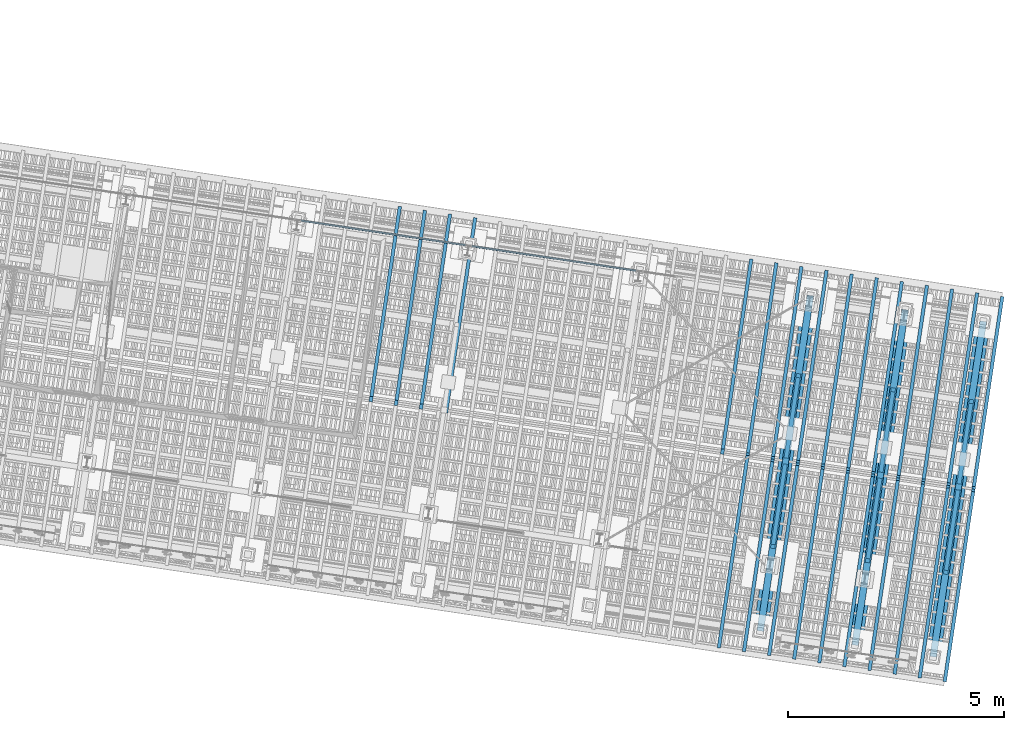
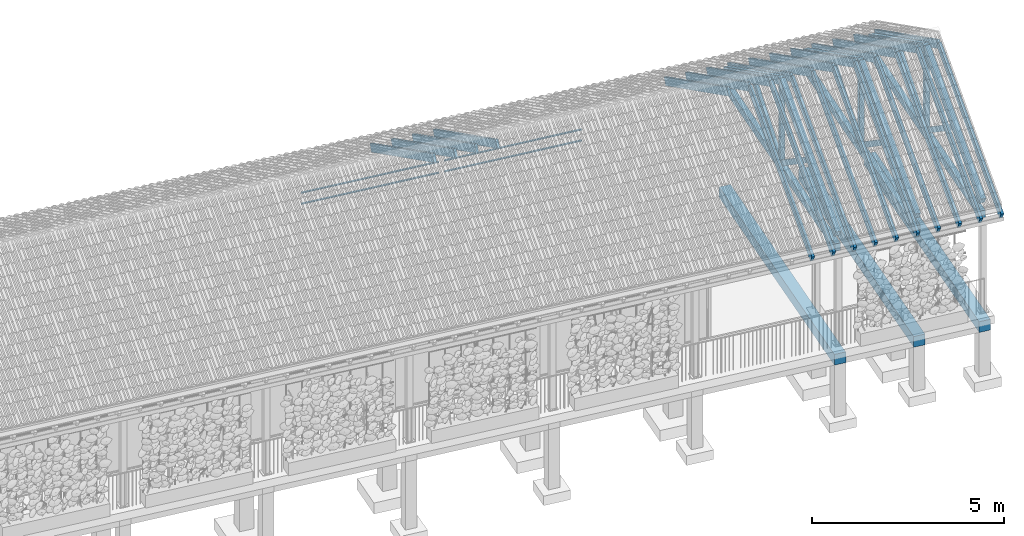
# One storey, part 105 of 131: 44 members, 6 beams, 2 elements without a shape of their own.
"""IFC4 building model written with IfcOpenShell, lengths in metres."""

import ifcopenshell
import ifcopenshell.guid

model = None  # the IFC model being written
_history = None  # IfcOwnerHistory: only IFC2X3 demands one
_inside = {}  # id of a spatial element -> (the spatial element, [elements in it])
_under = {}  # id of a project, library or spatial element -> (it, [spatial elements below it])
_declared = {}  # id of a project -> (the project, [libraries it declares])
_typed = {}  # id of a type object -> (the type object, [elements of that type])
_made_of = {}  # id of a material, layer set ... -> (it, [elements and type objects made of it])


def new_model(schema):
    """Start an empty IFC model of exactly this schema.

    Asked for "IFC4X3", IfcOpenShell would pick the latest addendum, in which some entities
    have other attributes; the version numbers below select the first issue.
    IFC2X3 requires an IfcOwnerHistory on every rooted entity: one is made here for all.
    """
    global model, _history
    if schema == "IFC4X3":
        model = ifcopenshell.file(schema_version=(4, 3, 0, 0))
    else:
        model = ifcopenshell.file(schema=schema)
    _inside.clear()
    _under.clear()
    _declared.clear()
    _typed.clear()
    _made_of.clear()
    _history = None
    if model.schema == "IFC2X3":
        org = make("IfcOrganization", Name="unknown")
        user = make(
            "IfcPersonAndOrganization",
            ThePerson=make("IfcPerson", FamilyName="unknown"),
            TheOrganization=org,
        )
        app = make(
            "IfcApplication",
            ApplicationDeveloper=org,
            Version="unknown",
            ApplicationFullName="unknown",
            ApplicationIdentifier="unknown",
        )
        _history = make(
            "IfcOwnerHistory",
            OwningUser=user,
            OwningApplication=app,
            ChangeAction="ADDED",
            CreationDate=0,
        )
    return model


def make(cls, **values):
    """One entity of the class cls with the attributes given. An attribute that is None is left unset."""
    return model.create_entity(
        cls, **{name: value for name, value in values.items() if value is not None}
    )


def rooted(cls, **values):
    """An entity with a GlobalId (a new one), such as an element, a storey or a relation."""
    return make(cls, GlobalId=ifcopenshell.guid.new(), OwnerHistory=_history, **values)


def si_unit(unit_type, name, prefix=None):
    """IfcSIUnit, for example si_unit("LENGTHUNIT", "METRE", prefix="MILLI")."""
    return make("IfcSIUnit", UnitType=unit_type, Prefix=prefix, Name=name)


def assignment(units):
    """IfcUnitAssignment: the units of a project."""
    return None if units is None else make("IfcUnitAssignment", Units=units)


def point(xyz):
    """IfcCartesianPoint."""
    return None if xyz is None else make("IfcCartesianPoint", Coordinates=xyz)


def direction(xyz):
    """IfcDirection."""
    return None if xyz is None else make("IfcDirection", DirectionRatios=xyz)


def frame(location, z_axis=None, x_axis=None):
    """IfcAxis2Placement3D, a coordinate frame: its origin and axes. An axis left out is left unset."""
    return make(
        "IfcAxis2Placement3D",
        Location=point(location),
        Axis=direction(z_axis),
        RefDirection=direction(x_axis),
    )


def origin_with_axes():
    """The frame at (0, 0, 0) with the z axis (0, 0, 1) and the x axis (1, 0, 0) written out."""
    return frame((0.0, 0.0, 0.0), z_axis=(0.0, 0.0, 1.0), x_axis=(1.0, 0.0, 0.0))


def place(relative_to, where):
    """IfcLocalPlacement: puts the frame where relative to a parent placement (None: the world)."""
    return make(
        "IfcLocalPlacement", PlacementRelTo=relative_to, RelativePlacement=where
    )


def context(
    kind, dimensions, precision=None, world=None, true_north=None, identifier=None
):
    """IfcGeometricRepresentationContext, for example the 3D "Model" context."""
    return make(
        "IfcGeometricRepresentationContext",
        ContextIdentifier=identifier,
        ContextType=kind,
        CoordinateSpaceDimension=dimensions,
        Precision=precision,
        WorldCoordinateSystem=world,
        TrueNorth=true_north,
    )


def subcontext(parent, identifier, kind, view, scale=None):
    """IfcGeometricRepresentationSubContext, for example "Body" below "Model"."""
    return make(
        "IfcGeometricRepresentationSubContext",
        ContextIdentifier=identifier,
        ContextType=kind,
        ParentContext=parent,
        TargetScale=scale,
        TargetView=view,
    )


def project(units=None, contexts=None):
    """IfcProject with its units and contexts."""
    return rooted(
        "IfcProject",
        Name="project",
        RepresentationContexts=contexts,
        UnitsInContext=assignment(units),
    )


def spatial(cls, under=None, at=None, **own):
    """A site, building, storey or space (cls), placed at a placement, below another one or the project."""
    s = rooted(cls, ObjectPlacement=at, **own)
    if under is not None:
        _under.setdefault(under.id(), (under, []))[1].append(s)
    return s


def polyline(points):
    """IfcPolyline through the points."""
    return make("IfcPolyline", Points=[point(p) for p in points])


def profile(cls, at=None, kind="AREA", **sizes):
    """A parametric profile (cls). Its sizes go by their IFC names, for example OverallWidth=200.0."""
    return make(cls, ProfileType=kind, Position=at, **sizes)


def rectangle(**sizes):
    """IfcRectangleProfileDef."""
    return profile("IfcRectangleProfileDef", **sizes)


def outline(outer, holes=None, kind="AREA"):
    """IfcArbitraryClosedProfileDef: a profile drawn as a closed curve; with holes, ...WithVoids."""
    if holes is None:
        return make("IfcArbitraryClosedProfileDef", ProfileType=kind, OuterCurve=outer)
    return make(
        "IfcArbitraryProfileDefWithVoids",
        ProfileType=kind,
        OuterCurve=outer,
        InnerCurves=holes,
    )


def extrude(swept, where, along, depth):
    """IfcExtrudedAreaSolid: the profile swept, set in the frame where, extruded along a direction by depth."""
    return make(
        "IfcExtrudedAreaSolid",
        SweptArea=swept,
        Position=where,
        ExtrudedDirection=direction(along),
        Depth=depth,
    )


def shape(context_of_items, identifier, shape_type, items):
    """IfcShapeRepresentation: the items that make up one representation, for example the "Body"."""
    return make(
        "IfcShapeRepresentation",
        ContextOfItems=context_of_items,
        RepresentationIdentifier=identifier,
        RepresentationType=shape_type,
        Items=items,
    )


def material(Name=None, Category=None):
    """IfcMaterial."""
    return make("IfcMaterial", Name=Name, Category=Category)


def material_profile(
    of_material, cross_section, Name=None, Category=None, Priority=None
):
    """IfcMaterialProfile: a cross section and its material."""
    return make(
        "IfcMaterialProfile",
        Name=Name,
        Material=of_material,
        Profile=cross_section,
        Priority=Priority,
        Category=Category,
    )


def profile_set(profiles, Name=None, composite=None):
    """IfcMaterialProfileSet."""
    return make(
        "IfcMaterialProfileSet",
        Name=Name,
        MaterialProfiles=profiles,
        CompositeProfile=composite,
    )


def profile_usage(for_profile_set, cardinal=None, extent=None):
    """IfcMaterialProfileSetUsage: how a profile set lies along its element."""
    return make(
        "IfcMaterialProfileSetUsage",
        ForProfileSet=for_profile_set,
        CardinalPoint=cardinal,
        ReferenceExtent=extent,
    )


def made_of(thing, what):
    """Note that an element or type object is made of a material, layer set ...; save() writes the relation."""
    if what is not None:
        _made_of.setdefault(what.id(), (what, []))[1].append(thing)
    return thing


def type_object(cls, material=None, **own):
    """A type object (cls), such as IfcWallType, which elements share."""
    return made_of(rooted(cls, **own), material)


def element(
    cls,
    number,
    at=None,
    inside=None,
    cuts=None,
    type_object=None,
    material=None,
    context=None,
    identifier="Body",
    shape_type=None,
    held_by="IfcProductDefinitionShape",
    body=None,
    shapes=None,
    **own,
):
    """One element of the class cls, such as IfcWall. Its Tag is "e" and its number.

    at: its placement. inside: the storey or other place that contains it. cuts: it is an
    opening in that element (IfcRelVoidsElement). A single representation is given by context,
    identifier, shape_type and body (its items); several are given by shapes. held_by: the class
    of the entity that holds the representations. save() writes the other relations.
    """
    e = rooted(cls, Tag="e%d" % number, ObjectPlacement=at, **own)
    if body is not None:
        shapes = [shape(context, identifier, shape_type, body)]
    if shapes is not None:
        e.Representation = make(held_by, Representations=shapes)
    if inside is not None:
        _inside.setdefault(inside.id(), (inside, []))[1].append(e)
    if cuts is not None:
        rooted(
            "IfcRelVoidsElement", RelatingBuildingElement=cuts, RelatedOpeningElement=e
        )
    if type_object is not None:
        _typed.setdefault(type_object.id(), (type_object, []))[1].append(e)
    return made_of(e, material)


def aggregate(whole, parts):
    """IfcRelAggregates: a whole, such as a stair, and the parts it consists of."""
    return rooted("IfcRelAggregates", RelatingObject=whole, RelatedObjects=parts)


def save(model, path):
    """Write the relations noted so far, then the file.

    IfcRelAggregates (storeys below a building ...), IfcRelContainedInSpatialStructure (elements
    in a storey), IfcRelDefinesByType, IfcRelAssociatesMaterial and IfcRelDeclares: one each for
    every whole, place, type object, material and project.
    """
    for whole, parts in _under.values():
        aggregate(whole, parts)
    for where, things in _inside.values():
        rooted(
            "IfcRelContainedInSpatialStructure",
            RelatedElements=things,
            RelatingStructure=where,
        )
    for kind, things in _typed.values():
        rooted("IfcRelDefinesByType", RelatedObjects=things, RelatingType=kind)
    for what, things in _made_of.values():
        rooted("IfcRelAssociatesMaterial", RelatedObjects=things, RelatingMaterial=what)
    for by, libraries in _declared.values():
        rooted("IfcRelDeclares", RelatingContext=by, RelatedDefinitions=libraries)
    model.write(path)


model = new_model("IFC4")

# Units and contexts
model_context = context("Model", 3, precision=1e-05, world=origin_with_axes(), true_north=direction((0.0, 1.0)))
body_context = subcontext(model_context, "Body", "Model", "MODEL_VIEW")
ifc_project = project(units=[si_unit("VOLUMEUNIT", "CUBIC_METRE"), si_unit("LENGTHUNIT", "METRE"), si_unit("AREAUNIT", "SQUARE_METRE")], contexts=[model_context])

# Site, building, storey
site_placement = place(None, origin_with_axes())
site = spatial("IfcSite", under=ifc_project, at=site_placement, Name="Lares · Rua das Mercês · artigo 4771")
building_placement = place(site_placement, frame((15.0, 9.7, 15.8), z_axis=(0.0, 0.0, 1.0), x_axis=(0.989015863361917, -0.147809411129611, 0.0)))
building = spatial("IfcBuilding", under=site, at=building_placement, Name="Casa Sobreposta")
storey_placement = place(building_placement, origin_with_axes())
storey = spatial("IfcBuildingStorey", under=building, at=storey_placement, Name="00 · Habitação e estacionamento", Elevation=15.8)

# Members
ifc_material_1 = material(Name="Aço pintado / Stahl lackiert", Category="steel")
ifc_material_profile_1 = material_profile(ifc_material_1, rectangle(XDim=0.035, YDim=0.035))
ifc_profile_set_1 = profile_set([ifc_material_profile_1], Name="R0.035")
ifc_profile_usage_1 = profile_usage(ifc_profile_set_1)
member_type_1 = type_object("IfcMemberType", Name="R0.035 / steel", PredefinedType="NOTDEFINED", material=ifc_profile_set_1)
member_1_placement = place(storey_placement, frame((16.08, 6.4, 2.35), z_axis=(1.0, 0.0, 0.0), x_axis=(0.0, -1.0, 0.0)))
element("IfcMember", 1, at=member_1_placement, inside=storey, type_object=member_type_1, material=ifc_profile_usage_1, Name="Rasgo norte 5 · travessa", context=body_context, shape_type="SweptSolid", body=[
    extrude(rectangle(XDim=0.035, YDim=0.035), origin_with_axes(), (0.0, 0.0, 1.0), 3.84),
])
ifc_profile_usage_2 = profile_usage(ifc_profile_set_1)
member_2_placement = place(storey_placement, frame((16.08, 6.4, 2.7), z_axis=(1.0, 0.0, 0.0), x_axis=(0.0, -1.0, 0.0)))
element("IfcMember", 2, at=member_2_placement, inside=storey, type_object=member_type_1, material=ifc_profile_usage_2, Name="Rasgo norte 5 · travessa", context=body_context, shape_type="SweptSolid", body=[
    extrude(rectangle(XDim=0.035, YDim=0.035), origin_with_axes(), (0.0, 0.0, 1.0), 3.84),
])
ifc_profile_usage_3 = profile_usage(ifc_profile_set_1)
member_3_placement = place(storey_placement, frame((20.08, 6.4, 2.35), z_axis=(1.0, 0.0, 0.0), x_axis=(0.0, -1.0, 0.0)))
element("IfcMember", 3, at=member_3_placement, inside=storey, type_object=member_type_1, material=ifc_profile_usage_3, Name="Rasgo norte 6 · travessa", context=body_context, shape_type="SweptSolid", body=[
    extrude(rectangle(XDim=0.035, YDim=0.035), origin_with_axes(), (0.0, 0.0, 1.0), 3.84),
])
ifc_profile_usage_4 = profile_usage(ifc_profile_set_1)
member_4_placement = place(storey_placement, frame((20.08, 6.4, 2.7), z_axis=(1.0, 0.0, 0.0), x_axis=(0.0, -1.0, 0.0)))
element("IfcMember", 4, at=member_4_placement, inside=storey, type_object=member_type_1, material=ifc_profile_usage_4, Name="Rasgo norte 6 · travessa", context=body_context, shape_type="SweptSolid", body=[
    extrude(rectangle(XDim=0.035, YDim=0.035), origin_with_axes(), (0.0, 0.0, 1.0), 3.84),
])

# Roof, beams, members
ifc_material_2 = material(Name="Madeira / Bauholz", Category="wood")
roof_placement = place(storey_placement, origin_with_axes())
roof = element("IfcRoof", 5, at=roof_placement, inside=storey, material=ifc_material_2, Name="Cobertura de telha · duas águas 30 graus", PredefinedType="GABLE_ROOF")
ifc_material_profile_2 = material_profile(ifc_material_2, rectangle(XDim=0.16, YDim=0.24))
ifc_profile_set_2 = profile_set([ifc_material_profile_2], Name="TIMBER0.160x0.240")
ifc_profile_usage_5 = profile_usage(ifc_profile_set_2)
beam_type = type_object("IfcBeamType", Name="TIMBER0.160x0.240 / timber", PredefinedType="NOTDEFINED", material=ifc_profile_set_2)
beam_1_placement = place(roof_placement, frame((28.0, -1.43, 3.02), z_axis=(0.0, 1.0, 0.0), x_axis=(1.0, 0.0, 0.0)))
beam_1 = element("IfcBeam", 6, at=beam_1_placement, type_object=beam_type, material=ifc_profile_usage_5, Name="Tesoura · tirante inferior", context=body_context, shape_type="SweptSolid", body=[
    extrude(rectangle(XDim=0.16, YDim=0.24), origin_with_axes(), (0.0, 0.0, 1.0), 7.86),
])
ifc_profile_usage_6 = profile_usage(ifc_profile_set_2)
beam_2_placement = place(roof_placement, frame((30.22, -1.43, 3.02), z_axis=(0.0, 1.0, 0.0), x_axis=(1.0, 0.0, 0.0)))
beam_2 = element("IfcBeam", 7, at=beam_2_placement, type_object=beam_type, material=ifc_profile_usage_6, Name="Tesoura · tirante inferior", context=body_context, shape_type="SweptSolid", body=[
    extrude(rectangle(XDim=0.16, YDim=0.24), origin_with_axes(), (0.0, 0.0, 1.0), 7.86),
])
ifc_profile_usage_7 = profile_usage(ifc_profile_set_2)
beam_3_placement = place(roof_placement, frame((32.05, -1.43, 3.02), z_axis=(0.0, 1.0, 0.0), x_axis=(1.0, 0.0, 0.0)))
beam_3 = element("IfcBeam", 8, at=beam_3_placement, type_object=beam_type, material=ifc_profile_usage_7, Name="Tesoura · tirante inferior", context=body_context, shape_type="SweptSolid", body=[
    extrude(rectangle(XDim=0.16, YDim=0.24), origin_with_axes(), (0.0, 0.0, 1.0), 7.86),
])
ifc_material_profile_3 = material_profile(ifc_material_2, rectangle(XDim=0.16, YDim=0.24))
ifc_profile_set_3 = profile_set([ifc_material_profile_3], Name="TIMBER0.160x0.240")
ifc_profile_usage_8 = profile_usage(ifc_profile_set_3)
member_type_2 = type_object("IfcMemberType", Name="TIMBER0.160x0.240 / timber", PredefinedType="NOTDEFINED", material=ifc_profile_set_3)
member_5_placement = place(roof_placement, frame((28.0, -1.43, 3.44635462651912), z_axis=(0.0, 0.866025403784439, 0.5), x_axis=(1.0, 0.0, 0.0)))
member_5 = element("IfcMember", 9, at=member_5_placement, type_object=member_type_2, material=ifc_profile_usage_8, Name="Tesoura · perna", context=body_context, shape_type="SweptSolid", body=[
    extrude(rectangle(XDim=0.16, YDim=0.24), origin_with_axes(), (0.0, 0.0, 1.0), 4.59570814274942),
])
ifc_profile_usage_9 = profile_usage(ifc_profile_set_3)
member_6_placement = place(roof_placement, frame((28.0, 2.55, 5.74420869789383), z_axis=(0.0, 0.866025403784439, -0.5), x_axis=(1.0, 0.0, 0.0)))
member_6 = element("IfcMember", 10, at=member_6_placement, type_object=member_type_2, material=ifc_profile_usage_9, Name="Tesoura · perna", context=body_context, shape_type="SweptSolid", body=[
    extrude(rectangle(XDim=0.16, YDim=0.24), origin_with_axes(), (0.0, 0.0, 1.0), 4.4802380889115),
])
ifc_profile_usage_10 = profile_usage(ifc_profile_set_3)
member_7_placement = place(roof_placement, frame((30.22, -1.43, 3.44635462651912), z_axis=(0.0, 0.866025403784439, 0.5), x_axis=(1.0, 0.0, 0.0)))
member_7 = element("IfcMember", 11, at=member_7_placement, type_object=member_type_2, material=ifc_profile_usage_10, Name="Tesoura · perna", context=body_context, shape_type="SweptSolid", body=[
    extrude(rectangle(XDim=0.16, YDim=0.24), origin_with_axes(), (0.0, 0.0, 1.0), 4.59570814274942),
])
ifc_profile_usage_11 = profile_usage(ifc_profile_set_3)
member_8_placement = place(roof_placement, frame((30.22, 2.55, 5.74420869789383), z_axis=(0.0, 0.866025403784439, -0.5), x_axis=(1.0, 0.0, 0.0)))
member_8 = element("IfcMember", 12, at=member_8_placement, type_object=member_type_2, material=ifc_profile_usage_11, Name="Tesoura · perna", context=body_context, shape_type="SweptSolid", body=[
    extrude(rectangle(XDim=0.16, YDim=0.24), origin_with_axes(), (0.0, 0.0, 1.0), 4.4802380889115),
])
ifc_profile_usage_12 = profile_usage(ifc_profile_set_3)
member_9_placement = place(roof_placement, frame((32.05, -1.43, 3.44635462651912), z_axis=(0.0, 0.866025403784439, 0.5), x_axis=(1.0, 0.0, 0.0)))
member_9 = element("IfcMember", 13, at=member_9_placement, type_object=member_type_2, material=ifc_profile_usage_12, Name="Tesoura · perna", context=body_context, shape_type="SweptSolid", body=[
    extrude(rectangle(XDim=0.16, YDim=0.24), origin_with_axes(), (0.0, 0.0, 1.0), 4.59570814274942),
])
ifc_profile_usage_13 = profile_usage(ifc_profile_set_3)
member_10_placement = place(roof_placement, frame((32.05, 2.55, 5.74420869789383), z_axis=(0.0, 0.866025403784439, -0.5), x_axis=(1.0, 0.0, 0.0)))
member_10 = element("IfcMember", 14, at=member_10_placement, type_object=member_type_2, material=ifc_profile_usage_13, Name="Tesoura · perna", context=body_context, shape_type="SweptSolid", body=[
    extrude(rectangle(XDim=0.16, YDim=0.24), origin_with_axes(), (0.0, 0.0, 1.0), 4.4802380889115),
])
ifc_material_profile_4 = material_profile(ifc_material_2, rectangle(XDim=0.14, YDim=0.14))
ifc_profile_set_4 = profile_set([ifc_material_profile_4], Name="TIMBER0.140x0.140")
ifc_profile_usage_14 = profile_usage(ifc_profile_set_4)
member_type_3 = type_object("IfcMemberType", Name="TIMBER0.140x0.140 / timber", PredefinedType="NOTDEFINED", material=ifc_profile_set_4)
member_11_placement = place(roof_placement, frame((28.0, 2.55, 3.02), z_axis=(0.0, 0.0, 1.0), x_axis=(1.0, 0.0, 0.0)))
member_11 = element("IfcMember", 15, at=member_11_placement, type_object=member_type_3, material=ifc_profile_usage_14, Name="Tesoura · pendural", context=body_context, shape_type="SweptSolid", body=[
    extrude(rectangle(XDim=0.14, YDim=0.14), origin_with_axes(), (0.0, 0.0, 1.0), 2.72420869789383),
])
ifc_profile_usage_15 = profile_usage(ifc_profile_set_4)
member_12_placement = place(roof_placement, frame((30.22, 2.55, 3.02), z_axis=(0.0, 0.0, 1.0), x_axis=(1.0, 0.0, 0.0)))
member_12 = element("IfcMember", 16, at=member_12_placement, type_object=member_type_3, material=ifc_profile_usage_15, Name="Tesoura · pendural", context=body_context, shape_type="SweptSolid", body=[
    extrude(rectangle(XDim=0.14, YDim=0.14), origin_with_axes(), (0.0, 0.0, 1.0), 2.72420869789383),
])
ifc_profile_usage_16 = profile_usage(ifc_profile_set_4)
member_13_placement = place(roof_placement, frame((32.05, 2.55, 3.02), z_axis=(0.0, 0.0, 1.0), x_axis=(1.0, 0.0, 0.0)))
member_13 = element("IfcMember", 17, at=member_13_placement, type_object=member_type_3, material=ifc_profile_usage_16, Name="Tesoura · pendural", context=body_context, shape_type="SweptSolid", body=[
    extrude(rectangle(XDim=0.14, YDim=0.14), origin_with_axes(), (0.0, 0.0, 1.0), 2.72420869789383),
])
ifc_material_profile_5 = material_profile(ifc_material_2, rectangle(XDim=0.1, YDim=0.16))
ifc_profile_set_5 = profile_set([ifc_material_profile_5], Name="TIMBER0.100x0.160")
ifc_profile_usage_17 = profile_usage(ifc_profile_set_5)
member_type_4 = type_object("IfcMemberType", Name="TIMBER0.100x0.160 / timber", PredefinedType="NOTDEFINED", material=ifc_profile_set_5)
member_14_placement = place(roof_placement, frame((28.0, 2.55, 3.1), z_axis=(0.0, -0.816439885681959, 0.577430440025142), x_axis=(-1.0, 0.0, 0.0)))
member_14 = element("IfcMember", 18, at=member_14_placement, type_object=member_type_4, material=ifc_profile_usage_17, Name="Tesoura · escora", context=body_context, shape_type="SweptSolid", body=[
    extrude(rectangle(XDim=0.1, YDim=0.16), origin_with_axes(), (0.0, 0.0, 1.0), 2.44965984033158),
])
ifc_profile_usage_18 = profile_usage(ifc_profile_set_5)
member_15_placement = place(roof_placement, frame((28.0, 2.55, 3.1), z_axis=(0.0, 0.816439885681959, 0.577430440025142), x_axis=(1.0, 0.0, 0.0)))
member_15 = element("IfcMember", 19, at=member_15_placement, type_object=member_type_4, material=ifc_profile_usage_18, Name="Tesoura · escora", context=body_context, shape_type="SweptSolid", body=[
    extrude(rectangle(XDim=0.1, YDim=0.16), origin_with_axes(), (0.0, 0.0, 1.0), 2.44965984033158),
])
ifc_profile_usage_19 = profile_usage(ifc_profile_set_5)
member_16_placement = place(roof_placement, frame((30.22, 2.55, 3.1), z_axis=(0.0, -0.816439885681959, 0.577430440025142), x_axis=(-1.0, 0.0, 0.0)))
member_16 = element("IfcMember", 20, at=member_16_placement, type_object=member_type_4, material=ifc_profile_usage_19, Name="Tesoura · escora", context=body_context, shape_type="SweptSolid", body=[
    extrude(rectangle(XDim=0.1, YDim=0.16), origin_with_axes(), (0.0, 0.0, 1.0), 2.44965984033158),
])
ifc_profile_usage_20 = profile_usage(ifc_profile_set_5)
member_17_placement = place(roof_placement, frame((30.22, 2.55, 3.1), z_axis=(0.0, 0.816439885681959, 0.577430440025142), x_axis=(1.0, 0.0, 0.0)))
member_17 = element("IfcMember", 21, at=member_17_placement, type_object=member_type_4, material=ifc_profile_usage_20, Name="Tesoura · escora", context=body_context, shape_type="SweptSolid", body=[
    extrude(rectangle(XDim=0.1, YDim=0.16), origin_with_axes(), (0.0, 0.0, 1.0), 2.44965984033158),
])
ifc_profile_usage_21 = profile_usage(ifc_profile_set_5)
member_18_placement = place(roof_placement, frame((32.05, 2.55, 3.1), z_axis=(0.0, -0.816439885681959, 0.577430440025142), x_axis=(-1.0, 0.0, 0.0)))
member_18 = element("IfcMember", 22, at=member_18_placement, type_object=member_type_4, material=ifc_profile_usage_21, Name="Tesoura · escora", context=body_context, shape_type="SweptSolid", body=[
    extrude(rectangle(XDim=0.1, YDim=0.16), origin_with_axes(), (0.0, 0.0, 1.0), 2.44965984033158),
])
ifc_profile_usage_22 = profile_usage(ifc_profile_set_5)
member_19_placement = place(roof_placement, frame((32.05, 2.55, 3.1), z_axis=(0.0, 0.816439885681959, 0.577430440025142), x_axis=(1.0, 0.0, 0.0)))
member_19 = element("IfcMember", 23, at=member_19_placement, type_object=member_type_4, material=ifc_profile_usage_22, Name="Tesoura · escora", context=body_context, shape_type="SweptSolid", body=[
    extrude(rectangle(XDim=0.1, YDim=0.16), origin_with_axes(), (0.0, 0.0, 1.0), 2.44965984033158),
])
ifc_material_profile_6 = material_profile(ifc_material_2, rectangle(XDim=0.08, YDim=0.24))
ifc_profile_set_6 = profile_set([ifc_material_profile_6], Name="TIMBER0.080x0.240")
ifc_profile_usage_23 = profile_usage(ifc_profile_set_6)
member_type_5 = type_object("IfcMemberType", Name="TIMBER0.080x0.240 / timber", PredefinedType="NOTDEFINED", material=ifc_profile_set_6)
member_20_placement = place(roof_placement, frame((18.2909090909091, 2.55, 5.75020869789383), z_axis=(0.0, 0.866025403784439, -0.5), x_axis=(1.0, 0.0, 0.0)))
member_20 = element("IfcMember", 24, at=member_20_placement, type_object=member_type_5, material=ifc_profile_usage_23, Name="Cobertura · caibro", context=body_context, shape_type="SweptSolid", body=[
    extrude(rectangle(XDim=0.08, YDim=0.24), origin_with_axes(), (0.0, 0.0, 1.0), 5.13841739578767),
])
ifc_profile_usage_24 = profile_usage(ifc_profile_set_6)
member_21_placement = place(roof_placement, frame((18.8787878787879, 2.55, 5.75020869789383), z_axis=(0.0, 0.866025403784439, -0.5), x_axis=(1.0, 0.0, 0.0)))
member_21 = element("IfcMember", 25, at=member_21_placement, type_object=member_type_5, material=ifc_profile_usage_24, Name="Cobertura · caibro", context=body_context, shape_type="SweptSolid", body=[
    extrude(rectangle(XDim=0.08, YDim=0.24), origin_with_axes(), (0.0, 0.0, 1.0), 5.13841739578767),
])
ifc_profile_usage_25 = profile_usage(ifc_profile_set_6)
member_22_placement = place(roof_placement, frame((19.4666666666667, 2.55, 5.75020869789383), z_axis=(0.0, 0.866025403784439, -0.5), x_axis=(1.0, 0.0, 0.0)))
member_22 = element("IfcMember", 26, at=member_22_placement, type_object=member_type_5, material=ifc_profile_usage_25, Name="Cobertura · caibro", context=body_context, shape_type="SweptSolid", body=[
    extrude(rectangle(XDim=0.08, YDim=0.24), origin_with_axes(), (0.0, 0.0, 1.0), 5.13841739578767),
])
ifc_profile_usage_26 = profile_usage(ifc_profile_set_6)
member_23_placement = place(roof_placement, frame((20.0545454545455, 2.55, 5.75020869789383), z_axis=(0.0, 0.866025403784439, -0.5), x_axis=(1.0, 0.0, 0.0)))
member_23 = element("IfcMember", 27, at=member_23_placement, type_object=member_type_5, material=ifc_profile_usage_26, Name="Cobertura · caibro", context=body_context, shape_type="SweptSolid", body=[
    extrude(rectangle(XDim=0.08, YDim=0.24), origin_with_axes(), (0.0, 0.0, 1.0), 5.13841739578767),
])
ifc_profile_usage_27 = profile_usage(ifc_profile_set_6)
member_24_placement = place(roof_placement, frame((26.5212121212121, 2.55, 5.75020869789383), z_axis=(0.0, 0.866025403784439, -0.5), x_axis=(1.0, 0.0, 0.0)))
member_24 = element("IfcMember", 28, at=member_24_placement, type_object=member_type_5, material=ifc_profile_usage_27, Name="Cobertura · caibro", context=body_context, shape_type="SweptSolid", body=[
    extrude(rectangle(XDim=0.08, YDim=0.24), origin_with_axes(), (0.0, 0.0, 1.0), 5.13841739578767),
])
ifc_profile_usage_28 = profile_usage(ifc_profile_set_6)
member_25_placement = place(roof_placement, frame((27.1090909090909, -1.9, 3.181), z_axis=(0.0, 0.866025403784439, 0.5), x_axis=(1.0, 0.0, 0.0)))
member_25 = element("IfcMember", 29, at=member_25_placement, type_object=member_type_5, material=ifc_profile_usage_28, Name="Cobertura · caibro", context=body_context, shape_type="SweptSolid", body=[
    extrude(rectangle(XDim=0.08, YDim=0.24), origin_with_axes(), (0.0, 0.0, 1.0), 5.13841739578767),
])
ifc_profile_usage_29 = profile_usage(ifc_profile_set_6)
member_26_placement = place(roof_placement, frame((27.1090909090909, 2.55, 5.75020869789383), z_axis=(0.0, 0.866025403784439, -0.5), x_axis=(1.0, 0.0, 0.0)))
member_26 = element("IfcMember", 30, at=member_26_placement, type_object=member_type_5, material=ifc_profile_usage_29, Name="Cobertura · caibro", context=body_context, shape_type="SweptSolid", body=[
    extrude(rectangle(XDim=0.08, YDim=0.24), origin_with_axes(), (0.0, 0.0, 1.0), 5.13841739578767),
])
ifc_profile_usage_30 = profile_usage(ifc_profile_set_6)
member_27_placement = place(roof_placement, frame((27.6969696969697, -1.9, 3.181), z_axis=(0.0, 0.866025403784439, 0.5), x_axis=(1.0, 0.0, 0.0)))
member_27 = element("IfcMember", 31, at=member_27_placement, type_object=member_type_5, material=ifc_profile_usage_30, Name="Cobertura · caibro", context=body_context, shape_type="SweptSolid", body=[
    extrude(rectangle(XDim=0.08, YDim=0.24), origin_with_axes(), (0.0, 0.0, 1.0), 5.13841739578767),
])
ifc_profile_usage_31 = profile_usage(ifc_profile_set_6)
member_28_placement = place(roof_placement, frame((27.6969696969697, 2.55, 5.75020869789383), z_axis=(0.0, 0.866025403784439, -0.5), x_axis=(1.0, 0.0, 0.0)))
member_28 = element("IfcMember", 32, at=member_28_placement, type_object=member_type_5, material=ifc_profile_usage_31, Name="Cobertura · caibro", context=body_context, shape_type="SweptSolid", body=[
    extrude(rectangle(XDim=0.08, YDim=0.24), origin_with_axes(), (0.0, 0.0, 1.0), 5.13841739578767),
])
ifc_profile_usage_32 = profile_usage(ifc_profile_set_6)
member_29_placement = place(roof_placement, frame((28.2848484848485, -1.9, 3.181), z_axis=(0.0, 0.866025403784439, 0.5), x_axis=(1.0, 0.0, 0.0)))
member_29 = element("IfcMember", 33, at=member_29_placement, type_object=member_type_5, material=ifc_profile_usage_32, Name="Cobertura · caibro", context=body_context, shape_type="SweptSolid", body=[
    extrude(rectangle(XDim=0.08, YDim=0.24), origin_with_axes(), (0.0, 0.0, 1.0), 5.13841739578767),
])
ifc_profile_usage_33 = profile_usage(ifc_profile_set_6)
member_30_placement = place(roof_placement, frame((28.2848484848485, 2.55, 5.75020869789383), z_axis=(0.0, 0.866025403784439, -0.5), x_axis=(1.0, 0.0, 0.0)))
member_30 = element("IfcMember", 34, at=member_30_placement, type_object=member_type_5, material=ifc_profile_usage_33, Name="Cobertura · caibro", context=body_context, shape_type="SweptSolid", body=[
    extrude(rectangle(XDim=0.08, YDim=0.24), origin_with_axes(), (0.0, 0.0, 1.0), 5.13841739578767),
])
ifc_profile_usage_34 = profile_usage(ifc_profile_set_6)
member_31_placement = place(roof_placement, frame((28.8727272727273, -1.9, 3.181), z_axis=(0.0, 0.866025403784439, 0.5), x_axis=(1.0, 0.0, 0.0)))
member_31 = element("IfcMember", 35, at=member_31_placement, type_object=member_type_5, material=ifc_profile_usage_34, Name="Cobertura · caibro", context=body_context, shape_type="SweptSolid", body=[
    extrude(rectangle(XDim=0.08, YDim=0.24), origin_with_axes(), (0.0, 0.0, 1.0), 5.13841739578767),
])
ifc_profile_usage_35 = profile_usage(ifc_profile_set_6)
member_32_placement = place(roof_placement, frame((28.8727272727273, 2.55, 5.75020869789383), z_axis=(0.0, 0.866025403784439, -0.5), x_axis=(1.0, 0.0, 0.0)))
member_32 = element("IfcMember", 36, at=member_32_placement, type_object=member_type_5, material=ifc_profile_usage_35, Name="Cobertura · caibro", context=body_context, shape_type="SweptSolid", body=[
    extrude(rectangle(XDim=0.08, YDim=0.24), origin_with_axes(), (0.0, 0.0, 1.0), 5.13841739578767),
])
ifc_profile_usage_36 = profile_usage(ifc_profile_set_6)
member_33_placement = place(roof_placement, frame((29.4606060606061, -1.9, 3.181), z_axis=(0.0, 0.866025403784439, 0.5), x_axis=(1.0, 0.0, 0.0)))
member_33 = element("IfcMember", 37, at=member_33_placement, type_object=member_type_5, material=ifc_profile_usage_36, Name="Cobertura · caibro", context=body_context, shape_type="SweptSolid", body=[
    extrude(rectangle(XDim=0.08, YDim=0.24), origin_with_axes(), (0.0, 0.0, 1.0), 5.13841739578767),
])
ifc_profile_usage_37 = profile_usage(ifc_profile_set_6)
member_34_placement = place(roof_placement, frame((29.4606060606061, 2.55, 5.75020869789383), z_axis=(0.0, 0.866025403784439, -0.5), x_axis=(1.0, 0.0, 0.0)))
member_34 = element("IfcMember", 38, at=member_34_placement, type_object=member_type_5, material=ifc_profile_usage_37, Name="Cobertura · caibro", context=body_context, shape_type="SweptSolid", body=[
    extrude(rectangle(XDim=0.08, YDim=0.24), origin_with_axes(), (0.0, 0.0, 1.0), 5.13841739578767),
])
ifc_profile_usage_38 = profile_usage(ifc_profile_set_6)
member_35_placement = place(roof_placement, frame((30.0484848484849, -1.9, 3.181), z_axis=(0.0, 0.866025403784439, 0.5), x_axis=(1.0, 0.0, 0.0)))
member_35 = element("IfcMember", 39, at=member_35_placement, type_object=member_type_5, material=ifc_profile_usage_38, Name="Cobertura · caibro", context=body_context, shape_type="SweptSolid", body=[
    extrude(rectangle(XDim=0.08, YDim=0.24), origin_with_axes(), (0.0, 0.0, 1.0), 5.13841739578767),
])
ifc_profile_usage_39 = profile_usage(ifc_profile_set_6)
member_36_placement = place(roof_placement, frame((30.0484848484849, 2.55, 5.75020869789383), z_axis=(0.0, 0.866025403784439, -0.5), x_axis=(1.0, 0.0, 0.0)))
member_36 = element("IfcMember", 40, at=member_36_placement, type_object=member_type_5, material=ifc_profile_usage_39, Name="Cobertura · caibro", context=body_context, shape_type="SweptSolid", body=[
    extrude(rectangle(XDim=0.08, YDim=0.24), origin_with_axes(), (0.0, 0.0, 1.0), 5.13841739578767),
])
ifc_profile_usage_40 = profile_usage(ifc_profile_set_6)
member_37_placement = place(roof_placement, frame((30.6363636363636, -1.9, 3.181), z_axis=(0.0, 0.866025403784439, 0.5), x_axis=(1.0, 0.0, 0.0)))
member_37 = element("IfcMember", 41, at=member_37_placement, type_object=member_type_5, material=ifc_profile_usage_40, Name="Cobertura · caibro", context=body_context, shape_type="SweptSolid", body=[
    extrude(rectangle(XDim=0.08, YDim=0.24), origin_with_axes(), (0.0, 0.0, 1.0), 5.13841739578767),
])
ifc_profile_usage_41 = profile_usage(ifc_profile_set_6)
member_38_placement = place(roof_placement, frame((30.6363636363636, 2.55, 5.75020869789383), z_axis=(0.0, 0.866025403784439, -0.5), x_axis=(1.0, 0.0, 0.0)))
member_38 = element("IfcMember", 42, at=member_38_placement, type_object=member_type_5, material=ifc_profile_usage_41, Name="Cobertura · caibro", context=body_context, shape_type="SweptSolid", body=[
    extrude(rectangle(XDim=0.08, YDim=0.24), origin_with_axes(), (0.0, 0.0, 1.0), 5.13841739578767),
])
ifc_profile_usage_42 = profile_usage(ifc_profile_set_6)
member_39_placement = place(roof_placement, frame((31.2242424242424, -1.9, 3.181), z_axis=(0.0, 0.866025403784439, 0.5), x_axis=(1.0, 0.0, 0.0)))
member_39 = element("IfcMember", 43, at=member_39_placement, type_object=member_type_5, material=ifc_profile_usage_42, Name="Cobertura · caibro", context=body_context, shape_type="SweptSolid", body=[
    extrude(rectangle(XDim=0.08, YDim=0.24), origin_with_axes(), (0.0, 0.0, 1.0), 5.13841739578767),
])
ifc_profile_usage_43 = profile_usage(ifc_profile_set_6)
member_40_placement = place(roof_placement, frame((31.2242424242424, 2.55, 5.75020869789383), z_axis=(0.0, 0.866025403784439, -0.5), x_axis=(1.0, 0.0, 0.0)))
member_40 = element("IfcMember", 44, at=member_40_placement, type_object=member_type_5, material=ifc_profile_usage_43, Name="Cobertura · caibro", context=body_context, shape_type="SweptSolid", body=[
    extrude(rectangle(XDim=0.08, YDim=0.24), origin_with_axes(), (0.0, 0.0, 1.0), 5.13841739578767),
])
ifc_profile_usage_44 = profile_usage(ifc_profile_set_6)
member_41_placement = place(roof_placement, frame((31.8121212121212, -1.9, 3.181), z_axis=(0.0, 0.866025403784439, 0.5), x_axis=(1.0, 0.0, 0.0)))
member_41 = element("IfcMember", 45, at=member_41_placement, type_object=member_type_5, material=ifc_profile_usage_44, Name="Cobertura · caibro", context=body_context, shape_type="SweptSolid", body=[
    extrude(rectangle(XDim=0.08, YDim=0.24), origin_with_axes(), (0.0, 0.0, 1.0), 5.13841739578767),
])
ifc_profile_usage_45 = profile_usage(ifc_profile_set_6)
member_42_placement = place(roof_placement, frame((31.8121212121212, 2.55, 5.75020869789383), z_axis=(0.0, 0.866025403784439, -0.5), x_axis=(1.0, 0.0, 0.0)))
member_42 = element("IfcMember", 46, at=member_42_placement, type_object=member_type_5, material=ifc_profile_usage_45, Name="Cobertura · caibro", context=body_context, shape_type="SweptSolid", body=[
    extrude(rectangle(XDim=0.08, YDim=0.24), origin_with_axes(), (0.0, 0.0, 1.0), 5.13841739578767),
])
ifc_profile_usage_46 = profile_usage(ifc_profile_set_6)
member_43_placement = place(roof_placement, frame((32.4, -1.9, 3.181), z_axis=(0.0, 0.866025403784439, 0.5), x_axis=(1.0, 0.0, 0.0)))
member_43 = element("IfcMember", 47, at=member_43_placement, type_object=member_type_5, material=ifc_profile_usage_46, Name="Cobertura · caibro", context=body_context, shape_type="SweptSolid", body=[
    extrude(rectangle(XDim=0.08, YDim=0.24), origin_with_axes(), (0.0, 0.0, 1.0), 5.13841739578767),
])
ifc_profile_usage_47 = profile_usage(ifc_profile_set_6)
member_44_placement = place(roof_placement, frame((32.4, 2.55, 5.75020869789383), z_axis=(0.0, 0.866025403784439, -0.5), x_axis=(1.0, 0.0, 0.0)))
member_44 = element("IfcMember", 48, at=member_44_placement, type_object=member_type_5, material=ifc_profile_usage_47, Name="Cobertura · caibro", context=body_context, shape_type="SweptSolid", body=[
    extrude(rectangle(XDim=0.08, YDim=0.24), origin_with_axes(), (0.0, 0.0, 1.0), 5.13841739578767),
])
aggregate(roof, [beam_1, member_5, member_6, member_11, member_14, member_15, beam_2, member_7, member_8, member_12, member_16, member_17, beam_3, member_9, member_10, member_13, member_18, member_19, member_20, member_21, member_22, member_23, member_24, member_25, member_26, member_27, member_28, member_29, member_30, member_31, member_32, member_33, member_34, member_35, member_36, member_37, member_38, member_39, member_40, member_41, member_42, member_43, member_44])

# Assembly, beams
assembly_placement = place(storey_placement, origin_with_axes())
assembly = element("IfcElementAssembly", 49, at=assembly_placement, inside=storey, Name="Pódio · terraço, casa térrea e cisterna", ObjectType="CISTERN_PODIUM", PredefinedType="USERDEFINED")
ifc_material_3 = material(Name="Betão armado / Stahlbeton", Category="concrete")
beam_4_placement = place(assembly_placement, frame((0.0, 0.0, -0.59), z_axis=(0.0, 0.0, 1.0), x_axis=(1.0, 0.0, 0.0)))
beam_4 = element("IfcBeam", 50, at=beam_4_placement, material=ifc_material_3, Name="Pódio suspenso · viga transversal", context=body_context, shape_type="SweptSolid", body=[
    extrude(outline(polyline([(28.16, -1.59), (28.16, 6.59), (27.84, 6.59), (27.84, -1.59), (28.16, -1.59)])), origin_with_axes(), (0.0, 0.0, 1.0), 0.34),
])
beam_5_placement = place(assembly_placement, frame((0.0, 0.0, -0.59), z_axis=(0.0, 0.0, 1.0), x_axis=(1.0, 0.0, 0.0)))
beam_5 = element("IfcBeam", 51, at=beam_5_placement, material=ifc_material_3, Name="Pódio suspenso · viga transversal", context=body_context, shape_type="SweptSolid", body=[
    extrude(outline(polyline([(30.38, -1.59), (30.38, 6.59), (30.06, 6.59), (30.06, -1.59), (30.38, -1.59)])), origin_with_axes(), (0.0, 0.0, 1.0), 0.34),
])
beam_6_placement = place(assembly_placement, frame((0.0, 0.0, -0.59), z_axis=(0.0, 0.0, 1.0), x_axis=(1.0, 0.0, 0.0)))
beam_6 = element("IfcBeam", 52, at=beam_6_placement, material=ifc_material_3, Name="Pódio suspenso · viga transversal", context=body_context, shape_type="SweptSolid", body=[
    extrude(outline(polyline([(32.21, -1.59), (32.21, 6.59), (31.89, 6.59), (31.89, -1.59), (32.21, -1.59)])), origin_with_axes(), (0.0, 0.0, 1.0), 0.34),
])
aggregate(assembly, [beam_4, beam_5, beam_6])

save(model, "model.ifc")
